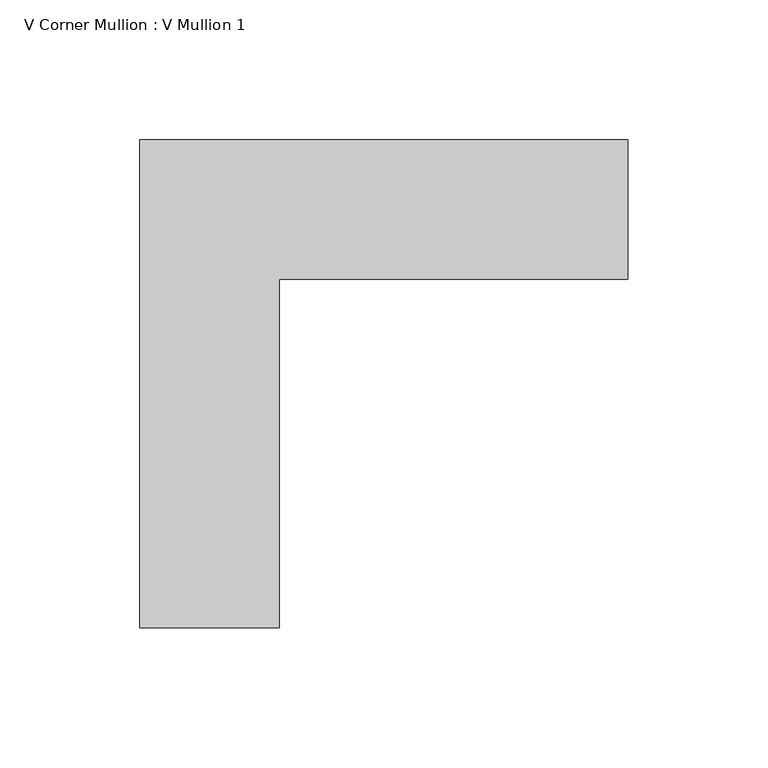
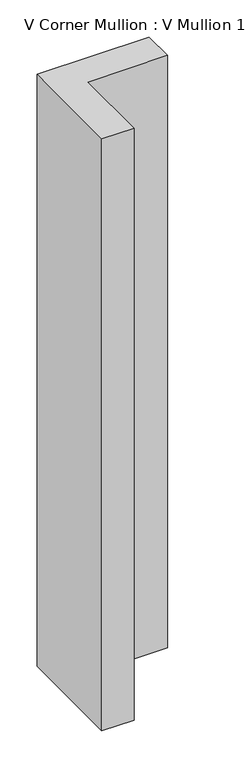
"""IFC4 building model written with IfcOpenShell, lengths in millimetres: member geometry, V Corner Mullion : V Mullion 1."""

from ifc_helpers import new_model, si_unit, frame, origin, place, context, project, spatial, polyline, outline, extrude, source, transform, mapped, element, save


def v_corner_mullion_v_mullion_1_634ccf5c(model_context):
    return source(origin(), model_context, "Body", "SweptSolid", [
        extrude(outline(polyline([(75.0, 50.0), (-50.0, 50.0), (-50.0, -75.0), (-100.0, -75.0), (-100.0, 100.0), (75.0, 100.0), (75.0, 50.0)])), frame((0.0, 0.0, -975.0), z_axis=(0.0, 0.0, 1.0), x_axis=(1.0, 0.0, 0.0)), (0.0, 0.0, 1.0), 975.0),
    ])


if __name__ == "__main__":
    model = new_model("IFC4")
    model_context = context("Model", 3, world=origin())
    ifc_project = project(units=[si_unit("LENGTHUNIT", "METRE", prefix="MILLI")], contexts=[model_context])
    site = spatial("IfcSite", under=ifc_project)
    building = spatial("IfcBuilding", under=site)
    placement = place(None, origin())
    v_corner_mullion_v_mullion_1_shape = v_corner_mullion_v_mullion_1_634ccf5c(model_context)
    element("IfcMember", 1, ObjectType="V Corner Mullion : V Mullion 1", at=placement, inside=building, context=model_context, shape_type="MappedRepresentation", body=[
        mapped(v_corner_mullion_v_mullion_1_shape, transform((0.0, 0.0, 0.0), x_axis=(1.0, 0.0, 0.0), y_axis=(0.0, 1.0, 0.0), z_axis=(0.0, 0.0, 1.0))),
    ])
    save(model, "model.ifc")
